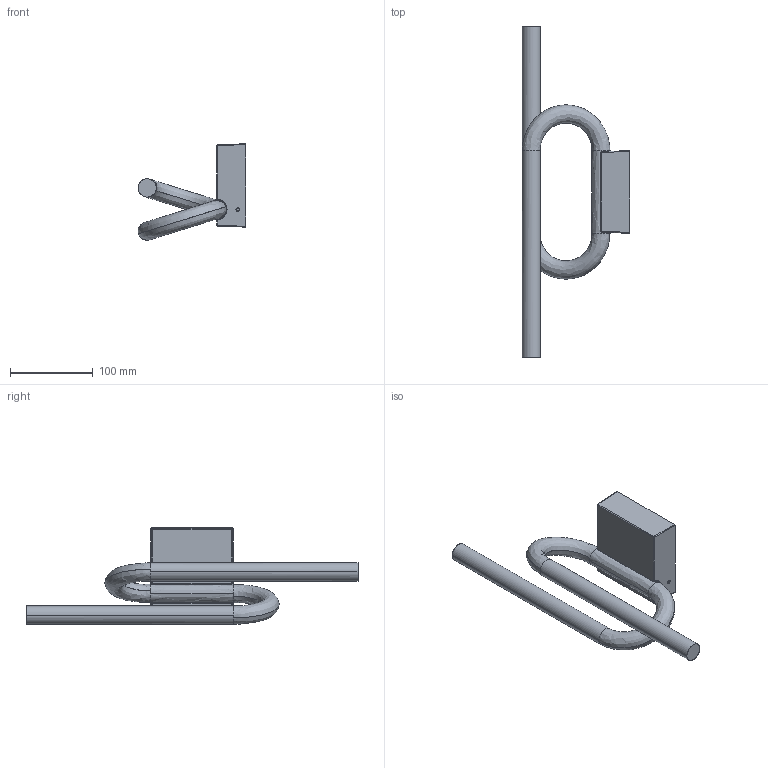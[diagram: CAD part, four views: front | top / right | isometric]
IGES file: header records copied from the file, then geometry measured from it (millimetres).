
Start section: SolidWorks IGES file using analytic representation for surfaces
Global section: file name: F:\foscarini\RS\0_ 3D-2D\FOSCARINI\CATALOGO\TOBIA\3d (3ds,dxf,stp,igs)\SOLIDWORKS\TOBIA_parete.IGS; native system: SolidWorks 2020; preprocessor: SolidWorks 2020; author: m.tonasso; date: 200317.102958; units: millimetre
Bounding box: 130 x 400 x 116.22 mm (x, y, z)
Surface area: 89517.7 mm2 (no closed solid volume)
Topology: 0 solids, 0 shells, 57 faces, 593 edges, 585 vertices
Faces by surface type: revolution 30, bspline 27
